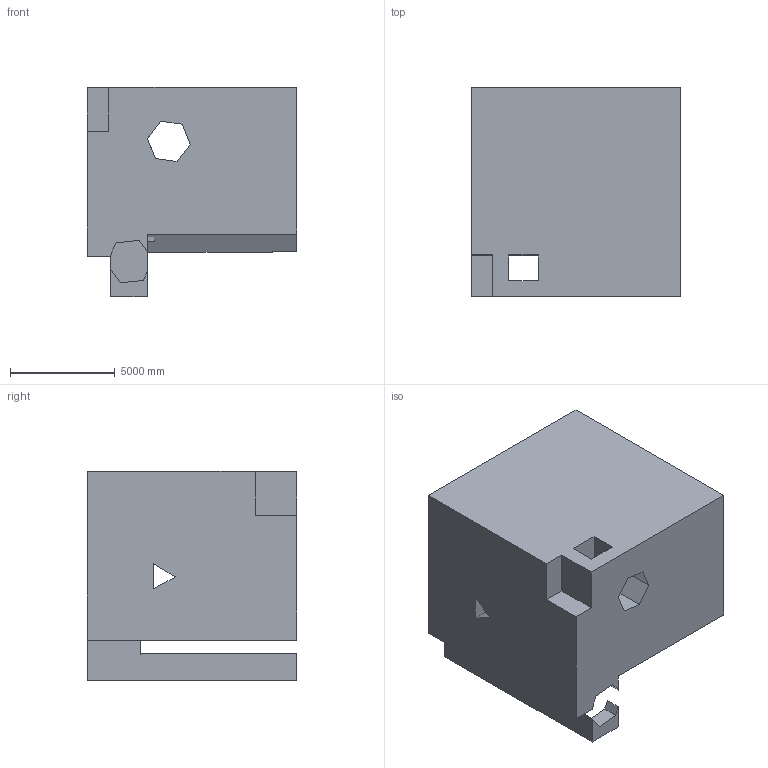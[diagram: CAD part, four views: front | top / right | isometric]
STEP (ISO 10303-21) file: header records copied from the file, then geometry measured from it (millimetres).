
FILE_DESCRIPTION (( 'STEP AP203' ), '1' );
FILE_NAME ('761.STEP', '2022-08-05T15:21:23', ( 'user' ), ( '' ), 'SwSTEP 2.0', 'SolidWorks 2021', '' );
FILE_SCHEMA (( 'CONFIG_CONTROL_DESIGN' ));
Length unit declared in the file: centimetre
Products named in the file (1): 761
Bounding box: 10000 x 10000 x 10000 mm (x, y, z)
Volume: 718577876158.5 mm3; surface area: 699134608.3 mm2
Topology: 1 solids, 1 shells, 47 faces, 143 edges, 95 vertices
Faces by surface type: plane 47
Entity records: 1662 total; most frequent: ORIENTED_EDGE 286, CARTESIAN_POINT 286, DIRECTION 239, EDGE_CURVE 143, VECTOR 143, LINE 143, VERTEX_POINT 95, EDGE_LOOP 52
